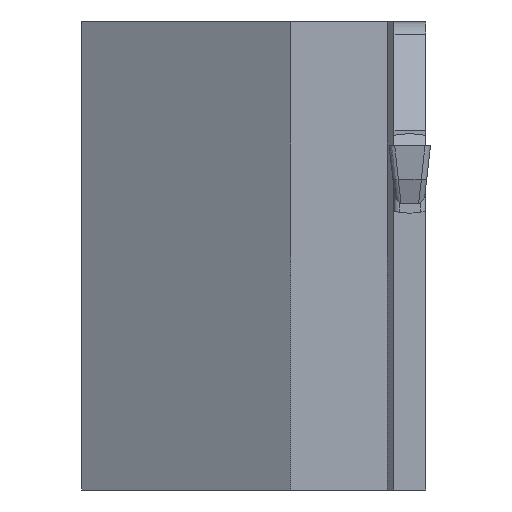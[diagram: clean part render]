
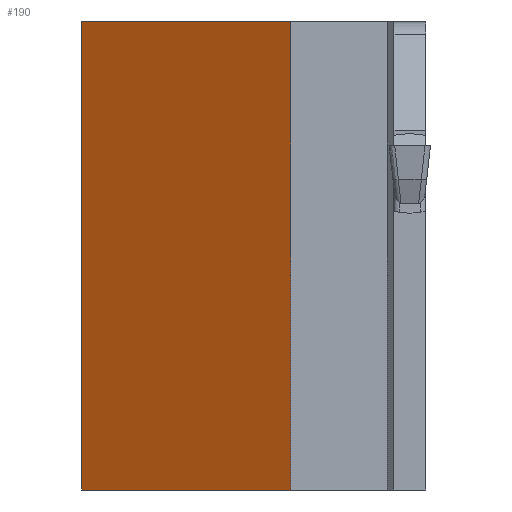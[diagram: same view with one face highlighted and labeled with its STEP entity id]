
A CAD part, left-side view. The second image highlights one B-rep face of the part: STEP entity #190.
In plain terms, the highlighted planar face has unit normal (-0.866, 0.5, 0).
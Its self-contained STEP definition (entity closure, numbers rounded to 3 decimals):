
#190=ADVANCED_FACE('',(#290),#235,.T.);
#235=PLANE('',#1217);
#290=FACE_OUTER_BOUND('',#347,.T.);
#347=EDGE_LOOP('',(#593,#594,#595,#596));
#593=ORIENTED_EDGE('',*,*,#892,.F.);
#594=ORIENTED_EDGE('',*,*,#893,.F.);
#595=ORIENTED_EDGE('',*,*,#866,.T.);
#596=ORIENTED_EDGE('',*,*,#891,.T.);
#734=VERTEX_POINT('',#1860);
#735=VERTEX_POINT('',#1862);
#756=VERTEX_POINT('',#1911);
#757=VERTEX_POINT('',#1915);
#866=EDGE_CURVE('',#735,#734,#989,.T.);
#891=EDGE_CURVE('',#734,#756,#1011,.T.);
#892=EDGE_CURVE('',#757,#756,#1012,.T.);
#893=EDGE_CURVE('',#735,#757,#1013,.T.);
#989=LINE('',#1861,#1112);
#1011=LINE('',#1912,#1134);
#1012=LINE('',#1914,#1135);
#1013=LINE('',#1916,#1136);
#1112=VECTOR('',#1419,1.);
#1134=VECTOR('',#1455,1.);
#1135=VECTOR('',#1458,1.);
#1136=VECTOR('',#1459,1.);
#1217=AXIS2_PLACEMENT_3D('',#1917,#1460,#1461);
#1419=DIRECTION('',(0.5,0.866,0.));
#1455=DIRECTION('',(0.,0.,-1.));
#1458=DIRECTION('',(0.5,0.866,0.));
#1459=DIRECTION('',(0.,0.,-1.));
#1460=DIRECTION('',(-0.866,0.5,0.));
#1461=DIRECTION('',(-0.5,-0.866,0.));
#1860=CARTESIAN_POINT('',(27.276,25.35,9.));
#1861=CARTESIAN_POINT('',(18.5,10.15,9.));
#1862=CARTESIAN_POINT('',(18.5,10.15,9.));
#1911=CARTESIAN_POINT('',(27.276,25.35,-25.));
#1912=CARTESIAN_POINT('',(27.276,25.35,9.));
#1914=CARTESIAN_POINT('',(18.5,10.15,-25.));
#1915=CARTESIAN_POINT('',(18.5,10.15,-25.));
#1916=CARTESIAN_POINT('',(18.5,10.15,9.));
#1917=CARTESIAN_POINT('',(18.5,10.15,9.));
